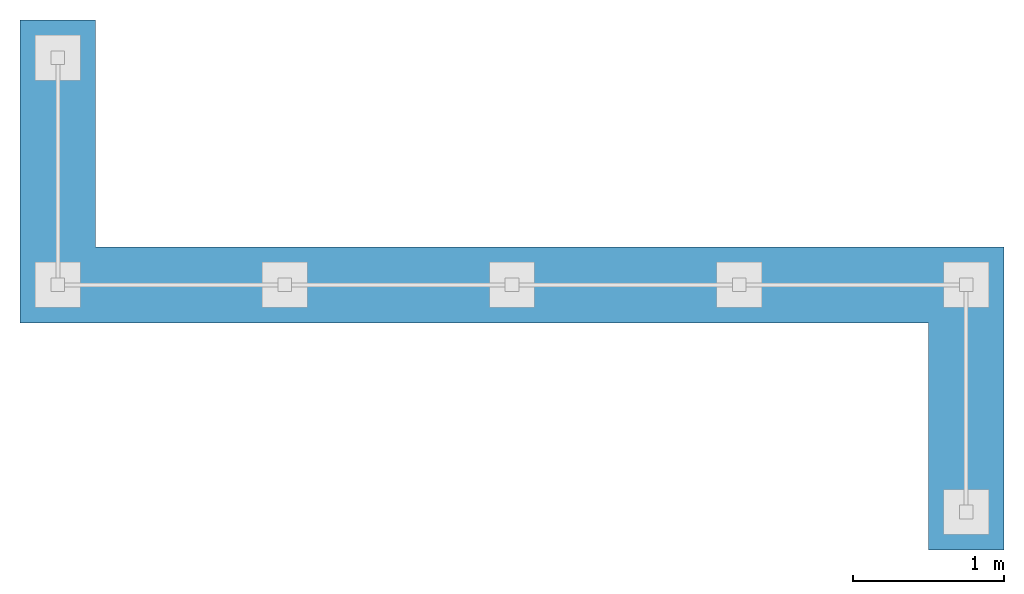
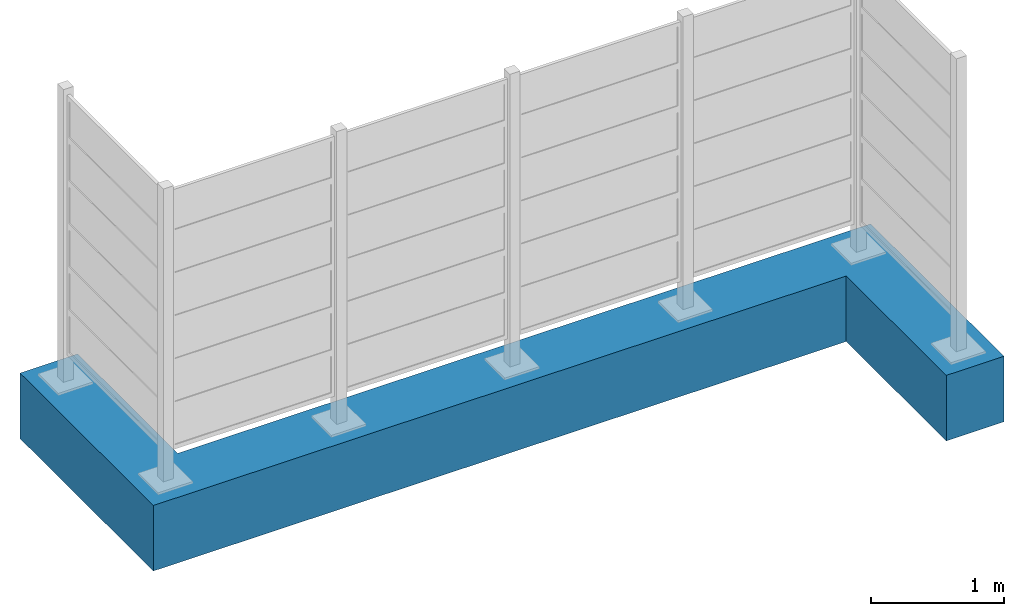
# One storey, incomplete: 1 slab.
"""IFC4 building model written with IfcOpenShell, lengths in metres."""

from ifc_helpers import new_model, entity, si_unit, converted_unit, direction, frame, origin, place, context, subcontext, project, spatial, polyline, outline, extrude, material, type_object, element, save


model = new_model("IFC4")

# Units and contexts
model_context = context("Model", 3, precision=1e-05, world=origin(), true_north=direction((6.123031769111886e-17, 1.0)))
body_context = subcontext(model_context, "Body", "Model", "MODEL_VIEW")
ifc_project = project(units=[si_unit("LENGTHUNIT", "METRE"), converted_unit("PLANEANGLEUNIT", "DEGREE", entity("IfcPlaneAngleMeasure", 0.017453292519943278), si_unit("PLANEANGLEUNIT", "RADIAN"), dimensions=[0, 0, 0, 0, 0, 0, 0]), si_unit("AREAUNIT", "SQUARE_METRE")], contexts=[model_context])

# Site, building, storey
site_placement = place(None, origin())
site = spatial("IfcSite", under=ifc_project, at=site_placement, Name="Default", CompositionType="ELEMENT")
building_placement = place(site_placement, origin())
building = spatial("IfcBuilding", under=site, at=building_placement, CompositionType="ELEMENT")
storey_placement = place(building_placement, origin())
storey = spatial("IfcBuildingStorey", under=building, at=storey_placement, Name="DB_Bezugshoehe_max_Bahnsteigkante", CompositionType="ELEMENT", Elevation=0.0)

# Slab
ifc_material = material(Name="DB_Ortbeton", Category="DB_Beton")
slab_type = type_object("IfcSlabType", Name="DB_Windschutz_4-feldrig_S_Fundament:DB_Windschutz_4-feldrig_S_Fundament", PredefinedType="BASESLAB", material=ifc_material)
slab_placement = place(storey_placement, origin())
element("IfcSlab", 1, at=slab_placement, inside=storey, type_object=slab_type, Name="DB_Windschutz_4-feldrig_S_Fundament:DB_Windschutz_4-feldrig_S_Fundament", ObjectType="DB_Windschutz_4-feldrig_S_Fundament:DB_Windschutz_4-feldrig_S_Fundament", PredefinedType="BASESLAB", context=body_context, shape_type="SweptSolid", body=[
    extrude(outline(polyline([(1.1120000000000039, 0.2499999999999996), (-3.528, 0.25000000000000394), (-3.528, -1.7500000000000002), (-3.028000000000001, -1.7500000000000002), (-3.028000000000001, -0.25000000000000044), (1.1120000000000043, -0.2500000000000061), (2.971999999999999, -0.24999999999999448), (2.971999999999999, 1.7499999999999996), (2.471999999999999, 1.7499999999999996), (2.471999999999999, 0.2499999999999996), (1.1120000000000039, 0.2499999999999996)])), frame((2.721999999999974, 0.0, 0.0), z_axis=(0.0, 0.0, -1.0), x_axis=(-1.0, 0.0, 0.0)), (0.0, 0.0, -1.0), 0.5999999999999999),
])

save(model, "model.ifc")
